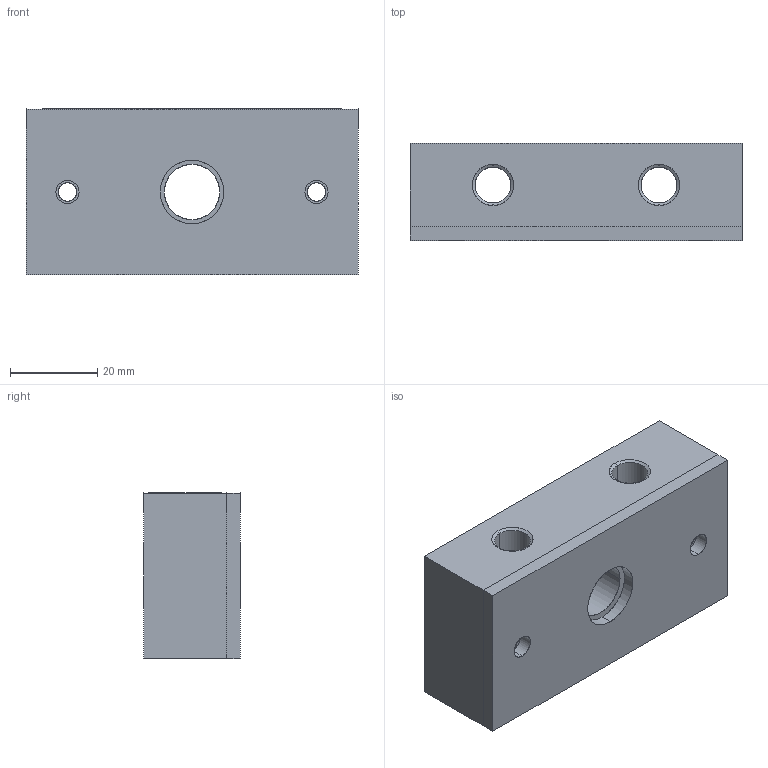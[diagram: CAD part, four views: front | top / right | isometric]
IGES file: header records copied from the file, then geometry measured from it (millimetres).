
Start section: SolidWorks IGES file using analytic representation for surfaces
Global section: file name: Z:\Projects\Business\Project Libraries\SolidWorks\parts\Leadscrew Drive Systems\Bearing Block (904 000).IGS; native system: SolidWorks 2020; preprocessor: SolidWorks 2020; author: nate; date: 201120.080834; units: millimetre
Bounding box: 76.2 x 22.23 x 38.1 mm (x, y, z)
Surface area: 21649.9 mm2 (no closed solid volume)
Topology: 0 solids, 0 shells, 55 faces, 1160 edges, 1160 vertices
Faces by surface type: revolution 38, bspline 17
